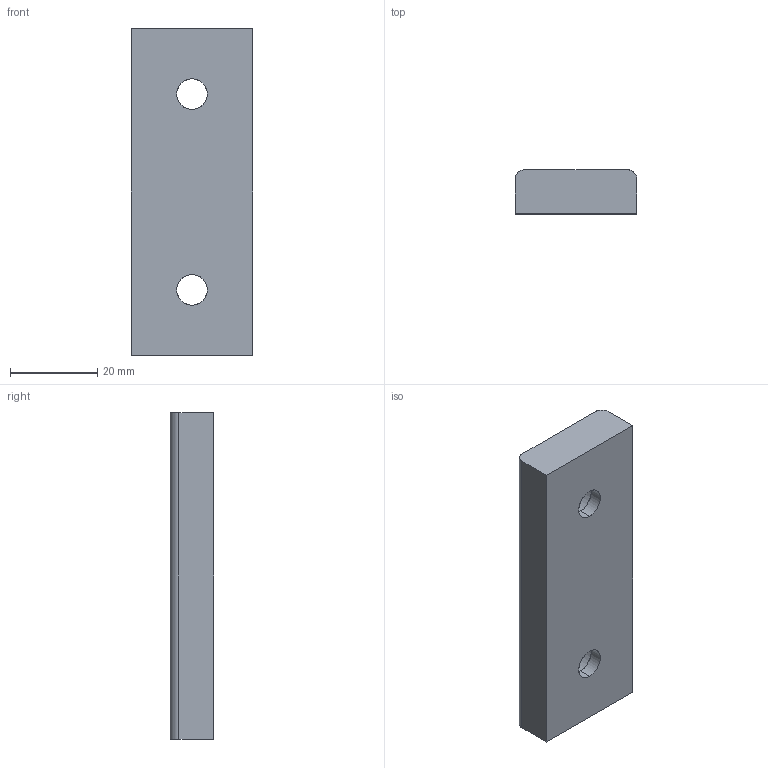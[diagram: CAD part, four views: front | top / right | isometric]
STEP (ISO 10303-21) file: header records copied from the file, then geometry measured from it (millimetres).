
FILE_DESCRIPTION(('CATIA V5 STEP Exchange'),'2;1');
FILE_NAME('C:\Users\Utente\Desktop\3D files A606\A606-028-075.stp','2020-04-13T18:07:56+00:00',('none'),('none'),'CATIA Version 5 Release 20 GA (IN-10)','CATIA V5 STEP AP203','none');
FILE_SCHEMA(('CONFIG_CONTROL_DESIGN'));
Length unit declared in the file: millimetre
Products named in the file (1): Noname
Bounding box: 28 x 10 x 75 mm (x, y, z)
Surface area: 6589.6 mm2 (no closed solid volume)
Topology: 0 solids, 14 shells, 18 faces, 76 edges, 68 vertices
Faces by surface type: cylinder 10, extrusion 8
Entity records: 1044 total; most frequent: CARTESIAN_POINT 415, DIRECTION 84, ORIENTED_EDGE 84, EDGE_CURVE 76, VERTEX_POINT 68, VECTOR 44, LINE 36, AXIS2_PLACEMENT_3D 31
